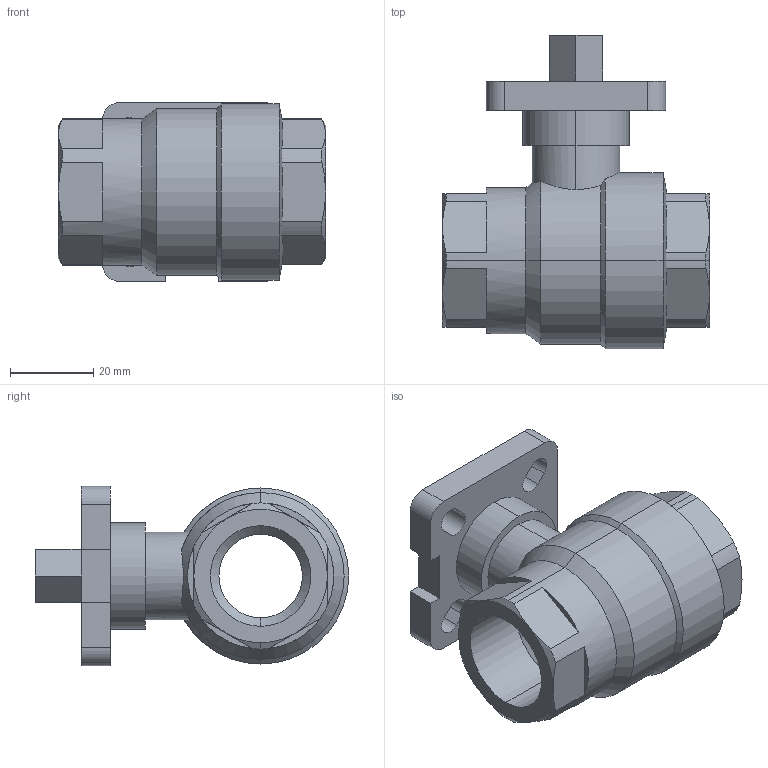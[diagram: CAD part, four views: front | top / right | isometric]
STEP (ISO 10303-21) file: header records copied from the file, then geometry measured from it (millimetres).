
FILE_DESCRIPTION (( 'STEP AP203' ), '1' );
FILE_NAME ('B3.622I0200FVPB0.STEP', '2018-09-28T12:43:12', ( '' ), ( '' ), 'SwSTEP 2.0', 'SolidWorks 2014', '' );
FILE_SCHEMA (( 'CONFIG_CONTROL_DESIGN' ));
Length unit declared in the file: millimetre
Products named in the file (1): B3.622I0200FVPB0
Bounding box: 64 x 75.1 x 43 mm (x, y, z)
Volume: 65305.6 mm3; surface area: 19613.9 mm2
Topology: 1 solids, 1 shells, 113 faces, 291 edges, 183 vertices
Faces by surface type: plane 48, cylinder 40, cone 25
Entity records: 3713 total; most frequent: CARTESIAN_POINT 853, DIRECTION 587, ORIENTED_EDGE 582, EDGE_CURVE 291, AXIS2_PLACEMENT_3D 220, VERTEX_POINT 183, LINE 147, VECTOR 147
